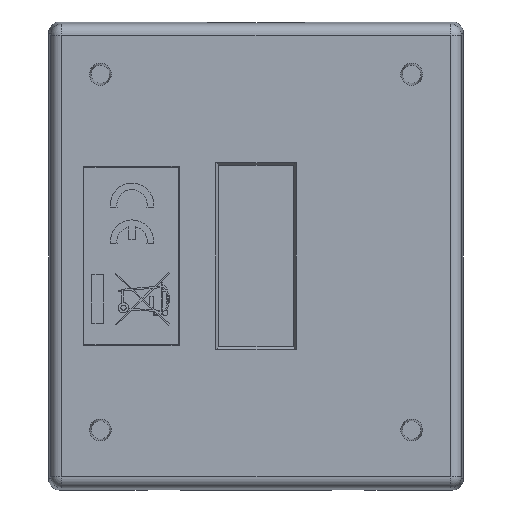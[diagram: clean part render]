
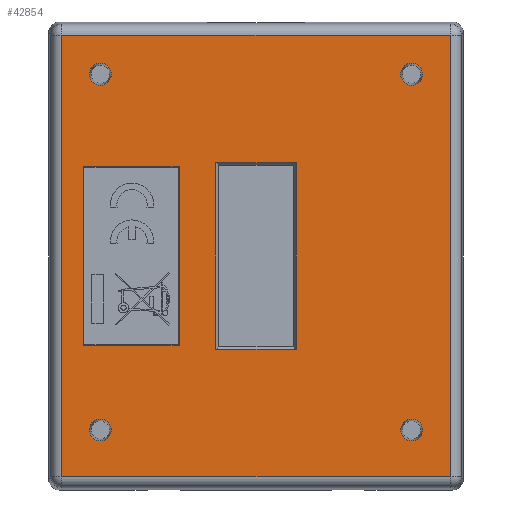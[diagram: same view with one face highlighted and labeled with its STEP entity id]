
A CAD part, front view. The second image highlights one B-rep face of the part: STEP entity #42854.
In plain terms, the highlighted planar face has unit normal (0, -1, 0) as drawn and (0, 0, -1) by its records, which use the part's own axes.
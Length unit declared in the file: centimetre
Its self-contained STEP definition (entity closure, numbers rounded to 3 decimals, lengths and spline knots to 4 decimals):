
#17584=CIRCLE('',#44431,0.1249);
#17585=CIRCLE('',#44432,0.1249);
#17586=CIRCLE('',#44433,0.1249);
#17587=CIRCLE('',#44434,0.1249);
#18431=VERTEX_POINT('',#53572);
#18432=VERTEX_POINT('',#53574);
#18434=VERTEX_POINT('',#53580);
#18436=VERTEX_POINT('',#53586);
#18587=VERTEX_POINT('',#54050);
#18588=VERTEX_POINT('',#54052);
#18590=VERTEX_POINT('',#54058);
#18592=VERTEX_POINT('',#54064);
#18713=VERTEX_POINT('',#55136);
#18714=VERTEX_POINT('',#55138);
#18715=VERTEX_POINT('',#55140);
#18716=VERTEX_POINT('',#55142);
#18717=VERTEX_POINT('',#55144);
#18718=VERTEX_POINT('',#55145);
#18719=VERTEX_POINT('',#55147);
#18720=VERTEX_POINT('',#55149);
#21060=VECTOR('',#46749,1.);
#21063=VECTOR('',#46753,1.);
#21066=VECTOR('',#46757,1.);
#21069=VECTOR('',#46761,1.);
#21252=VECTOR('',#47019,1.);
#21255=VECTOR('',#47023,1.);
#21258=VECTOR('',#47027,1.);
#21261=VECTOR('',#47031,1.);
#21422=VECTOR('',#47264,1.);
#21423=VECTOR('',#47265,1.);
#21424=VECTOR('',#47266,1.);
#21425=VECTOR('',#47267,1.);
#24043=LINE('',#53573,#21060);
#24046=LINE('',#53579,#21063);
#24049=LINE('',#53585,#21066);
#24052=LINE('',#53590,#21069);
#24235=LINE('',#54051,#21252);
#24238=LINE('',#54057,#21255);
#24241=LINE('',#54063,#21258);
#24244=LINE('',#54068,#21261);
#24405=LINE('',#55143,#21422);
#24406=LINE('',#55146,#21423);
#24407=LINE('',#55148,#21424);
#24408=LINE('',#55150,#21425);
#27026=EDGE_CURVE('',#18432,#18431,#24043,.T.);
#27029=EDGE_CURVE('',#18434,#18432,#24046,.T.);
#27032=EDGE_CURVE('',#18436,#18434,#24049,.T.);
#27035=EDGE_CURVE('',#18431,#18436,#24052,.T.);
#27240=EDGE_CURVE('',#18588,#18587,#24235,.F.);
#27243=EDGE_CURVE('',#18590,#18588,#24238,.F.);
#27246=EDGE_CURVE('',#18592,#18590,#24241,.F.);
#27249=EDGE_CURVE('',#18587,#18592,#24244,.F.);
#27430=EDGE_CURVE('',#18713,#18713,#17584,.F.);
#27431=EDGE_CURVE('',#18714,#18714,#17585,.F.);
#27432=EDGE_CURVE('',#18715,#18715,#17586,.F.);
#27433=EDGE_CURVE('',#18716,#18716,#17587,.F.);
#27434=EDGE_CURVE('',#18717,#18718,#24405,.T.);
#27435=EDGE_CURVE('',#18719,#18717,#24406,.T.);
#27436=EDGE_CURVE('',#18720,#18719,#24407,.T.);
#27437=EDGE_CURVE('',#18718,#18720,#24408,.T.);
#31869=ORIENTED_EDGE('',*,*,#27026,.T.);
#31870=ORIENTED_EDGE('',*,*,#27035,.T.);
#31871=ORIENTED_EDGE('',*,*,#27032,.T.);
#31872=ORIENTED_EDGE('',*,*,#27029,.T.);
#31873=ORIENTED_EDGE('',*,*,#27430,.T.);
#31874=ORIENTED_EDGE('',*,*,#27431,.T.);
#31875=ORIENTED_EDGE('',*,*,#27432,.T.);
#31876=ORIENTED_EDGE('',*,*,#27433,.T.);
#31877=ORIENTED_EDGE('',*,*,#27434,.F.);
#31878=ORIENTED_EDGE('',*,*,#27435,.F.);
#31879=ORIENTED_EDGE('',*,*,#27436,.F.);
#31880=ORIENTED_EDGE('',*,*,#27437,.F.);
#31881=ORIENTED_EDGE('',*,*,#27240,.T.);
#31882=ORIENTED_EDGE('',*,*,#27249,.T.);
#31883=ORIENTED_EDGE('',*,*,#27246,.T.);
#31884=ORIENTED_EDGE('',*,*,#27243,.T.);
#39446=EDGE_LOOP('',(#31869,#31870,#31871,#31872));
#39447=EDGE_LOOP('',(#31873));
#39448=EDGE_LOOP('',(#31874));
#39449=EDGE_LOOP('',(#31875));
#39450=EDGE_LOOP('',(#31876));
#39451=EDGE_LOOP('',(#31877,#31878,#31879,#31880));
#39452=EDGE_LOOP('',(#31881,#31882,#31883,#31884));
#41158=FACE_BOUND('',#39446,.T.);
#41159=FACE_BOUND('',#39447,.T.);
#41160=FACE_BOUND('',#39448,.T.);
#41161=FACE_BOUND('',#39449,.T.);
#41162=FACE_BOUND('',#39450,.T.);
#41163=FACE_BOUND('',#39451,.T.);
#41164=FACE_BOUND('',#39452,.T.);
#42854=ADVANCED_FACE('',(#41158,#41159,#41160,#41161,#41162,#41163,#41164),
#68708,.F.);
#44430=AXIS2_PLACEMENT_3D('',#55134,#47255,$);
#44431=AXIS2_PLACEMENT_3D('',#55135,#47256,#47257);
#44432=AXIS2_PLACEMENT_3D('',#55137,#47258,#47259);
#44433=AXIS2_PLACEMENT_3D('',#55139,#47260,#47261);
#44434=AXIS2_PLACEMENT_3D('',#55141,#47262,#47263);
#46749=DIRECTION('',(1.,0.,0.));
#46753=DIRECTION('',(0.,-1.,0.));
#46757=DIRECTION('',(-1.,0.,0.));
#46761=DIRECTION('',(0.,1.,0.));
#47019=DIRECTION('',(-1.,0.,0.));
#47023=DIRECTION('',(0.,1.,0.));
#47027=DIRECTION('',(1.,0.,0.));
#47031=DIRECTION('',(0.,-1.,0.));
#47255=DIRECTION('',(0.,0.,1.));
#47256=DIRECTION('',(0.,0.,-1.));
#47257=DIRECTION('',(-0.125,0.,0.));
#47258=DIRECTION('',(0.,0.,-1.));
#47259=DIRECTION('',(-0.125,0.,0.));
#47260=DIRECTION('',(0.,0.,-1.));
#47261=DIRECTION('',(-0.125,0.,0.));
#47262=DIRECTION('',(0.,0.,-1.));
#47263=DIRECTION('',(-0.125,0.,0.));
#47264=DIRECTION('',(-1.,0.,0.));
#47265=DIRECTION('',(0.,1.,0.));
#47266=DIRECTION('',(1.,0.,0.));
#47267=DIRECTION('',(0.,-1.,0.));
#53572=CARTESIAN_POINT('',(1.0668,-0.4572,-0.0032));
#53573=CARTESIAN_POINT('',(0.5334,-0.4572,-0.0032));
#53574=CARTESIAN_POINT('',(-1.0668,-0.4572,-0.0032));
#53579=CARTESIAN_POINT('',(-1.0668,-0.2286,-0.0032));
#53580=CARTESIAN_POINT('',(-1.0668,0.4572,-0.0032));
#53585=CARTESIAN_POINT('',(-0.5334,0.4572,-0.0032));
#53586=CARTESIAN_POINT('',(1.0668,0.4572,-0.0032));
#53590=CARTESIAN_POINT('',(1.0668,0.2286,-0.0032));
#54050=CARTESIAN_POINT('',(1.0231,-1.9728,-0.0032));
#54051=CARTESIAN_POINT('',(0.,-1.9728,-0.0032));
#54052=CARTESIAN_POINT('',(-1.0231,-1.9728,-0.0032));
#54057=CARTESIAN_POINT('',(-1.0231,-0.3565,-0.0032));
#54058=CARTESIAN_POINT('',(-1.0231,-0.879,-0.0032));
#54063=CARTESIAN_POINT('',(0.,-0.879,-0.0032));
#54064=CARTESIAN_POINT('',(1.0231,-0.879,-0.0032));
#54068=CARTESIAN_POINT('',(1.0231,-0.3565,-0.0032));
#55134=CARTESIAN_POINT('',(0.,0.,-0.0032));
#55135=CARTESIAN_POINT('',(2.0765,1.778,-0.0032));
#55136=CARTESIAN_POINT('',(2.2014,1.778,-0.0032));
#55137=CARTESIAN_POINT('',(2.0765,-1.778,-0.0032));
#55138=CARTESIAN_POINT('',(2.2014,-1.778,-0.0032));
#55139=CARTESIAN_POINT('',(-1.9876,-1.778,-0.0032));
#55140=CARTESIAN_POINT('',(-1.8626,-1.778,-0.0032));
#55141=CARTESIAN_POINT('',(-1.9876,1.778,-0.0032));
#55142=CARTESIAN_POINT('',(-1.8626,1.778,-0.0032));
#55143=CARTESIAN_POINT('',(0.,2.2197,-0.0032));
#55144=CARTESIAN_POINT('',(2.5245,2.2197,-0.0032));
#55145=CARTESIAN_POINT('',(-2.5245,2.2197,-0.0032));
#55146=CARTESIAN_POINT('',(2.5245,0.,-0.0032));
#55147=CARTESIAN_POINT('',(2.5245,-2.2197,-0.0032));
#55148=CARTESIAN_POINT('',(0.,-2.2197,-0.0032));
#55149=CARTESIAN_POINT('',(-2.5245,-2.2197,-0.0032));
#55150=CARTESIAN_POINT('',(-2.5245,0.,-0.0032));
#68708=PLANE('',#44430);
